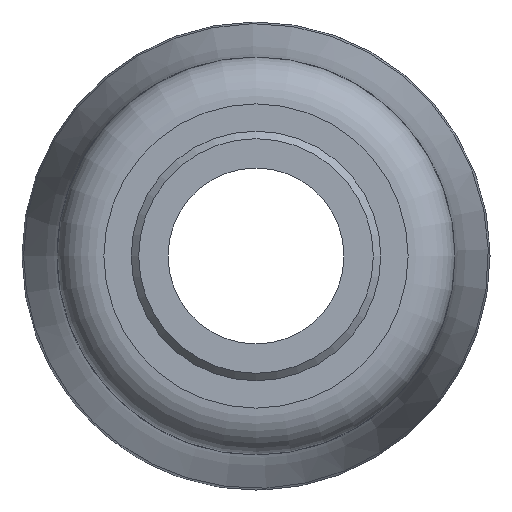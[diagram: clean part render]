
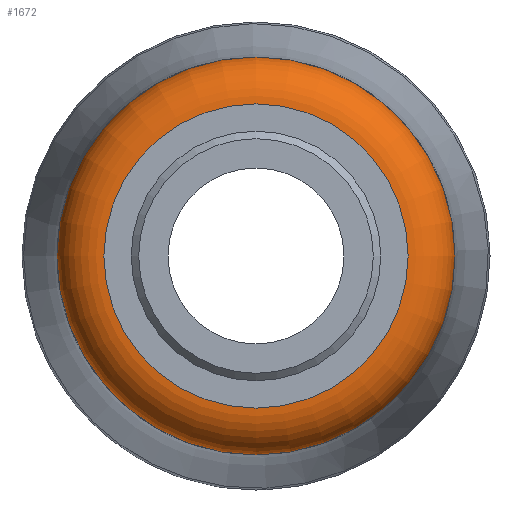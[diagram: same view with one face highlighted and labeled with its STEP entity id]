
A CAD part, left-side view. The second image highlights one B-rep face of the part: STEP entity #1672.
In plain terms, the highlighted toroidal (fillet/blend) face has major radius 18.85 mm and minor radius 5.8 mm.
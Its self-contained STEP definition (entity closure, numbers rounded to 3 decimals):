
#16=TOROIDAL_SURFACE('',#1828,18.85,5.8);
#353=FACE_BOUND('',#498,.T.);
#388=FACE_OUTER_BOUND('',#497,.T.);
#497=EDGE_LOOP('',(#1219));
#498=EDGE_LOOP('',(#1220));
#613=CIRCLE('',#1807,24.65);
#626=CIRCLE('',#1829,18.85);
#725=VERTEX_POINT('',#2881);
#735=VERTEX_POINT('',#2943);
#896=EDGE_CURVE('',#725,#725,#613,.T.);
#912=EDGE_CURVE('',#735,#735,#626,.T.);
#1219=ORIENTED_EDGE('',*,*,#912,.T.);
#1220=ORIENTED_EDGE('',*,*,#896,.T.);
#1672=ADVANCED_FACE('',(#388,#353),#16,.T.);
#1807=AXIS2_PLACEMENT_3D('',#2882,#2076,#2077);
#1828=AXIS2_PLACEMENT_3D('',#2942,#2119,#2120);
#1829=AXIS2_PLACEMENT_3D('',#2944,#2121,#2122);
#2076=DIRECTION('center_axis',(-1.,0.,0.));
#2077=DIRECTION('ref_axis',(0.,-1.,0.));
#2119=DIRECTION('center_axis',(1.,0.,0.));
#2120=DIRECTION('ref_axis',(0.,0.,-1.));
#2121=DIRECTION('center_axis',(1.,0.,0.));
#2122=DIRECTION('ref_axis',(0.,-1.,0.));
#2881=CARTESIAN_POINT('',(22.8,24.65,0.));
#2882=CARTESIAN_POINT('Origin',(22.8,0.,0.));
#2942=CARTESIAN_POINT('Origin',(22.8,0.,0.));
#2943=CARTESIAN_POINT('',(17.,18.85,0.));
#2944=CARTESIAN_POINT('Origin',(17.,0.,0.));
